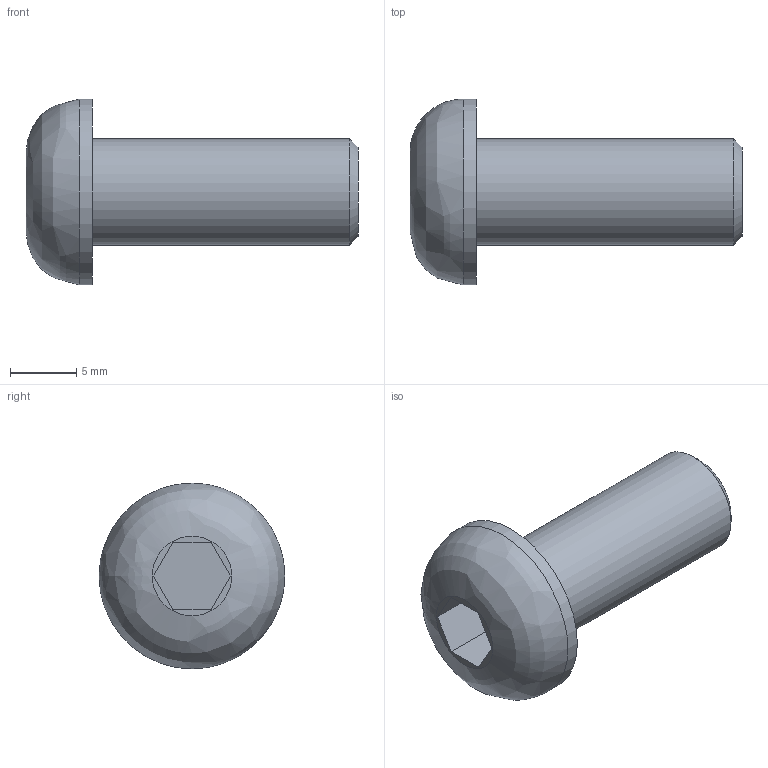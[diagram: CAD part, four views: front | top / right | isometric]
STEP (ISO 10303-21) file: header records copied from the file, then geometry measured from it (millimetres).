
FILE_DESCRIPTION( ( 'STEP AP203' ), '1' );
FILE_NAME( 'C:/BCS-08.stp', '2013-10-20T23:43:16', ( ' ' ), ( ' ' ), 'XStep 1.0', ' ', ' ' );
FILE_SCHEMA( ( 'CONFIG_CONTROL_DESIGN' ) );
Length unit declared in the file: metre
Products named in the file (1): 1
Bounding box: 25 x 14 x 14 mm (x, y, z)
Volume: 1568.7 mm3; surface area: 1009.4 mm2
Topology: 1 solids, 1 shells, 14 faces, 28 edges, 18 vertices
Faces by surface type: bspline 14
Entity records: 457 total; most frequent: CARTESIAN_POINT 182, ORIENTED_EDGE 48, DIRECTION 28, EDGE_CURVE 24, EDGE_LOOP 20, FACE_OUTER_BOUND 18, VERTEX_POINT 18, ADVANCED_FACE 14
